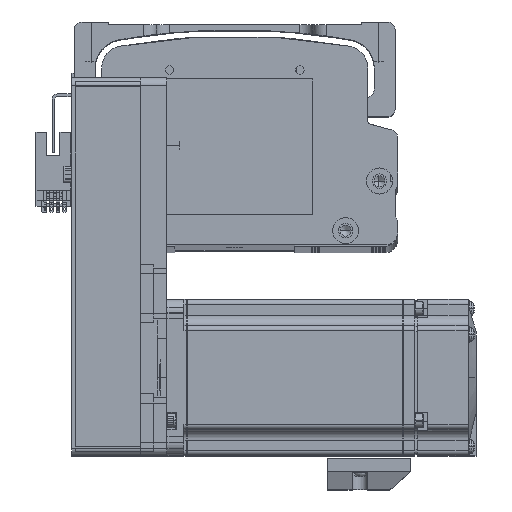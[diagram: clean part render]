
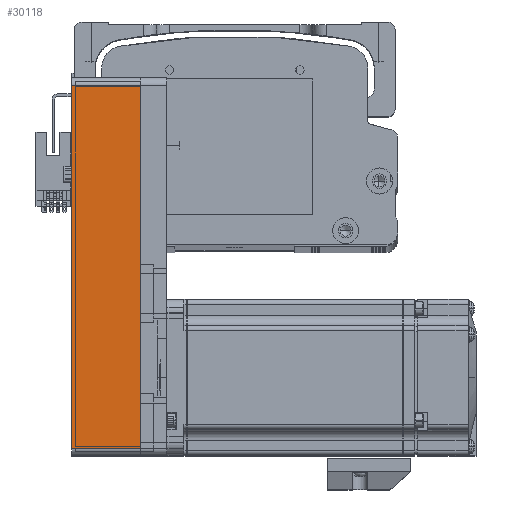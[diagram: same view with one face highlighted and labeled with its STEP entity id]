
A CAD part, top view. The second image highlights one B-rep face of the part: STEP entity #30118.
In plain terms, the highlighted planar face has unit normal (0, 0, 1) as drawn and (0, 1, 0) by its records, which use the part's own axes.
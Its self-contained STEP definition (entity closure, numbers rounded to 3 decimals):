
#4214 = DIRECTION ( 'NONE',  ( 0., 0., -1. ) ) ;
#8892 = CARTESIAN_POINT ( 'NONE',  ( -69.5, 30., 0. ) ) ;
#9939 = ORIENTED_EDGE ( 'NONE', *, *, #74913, .F. ) ;
#11620 = CARTESIAN_POINT ( 'NONE',  ( 72.5, 30., 26.5 ) ) ;
#14098 = VECTOR ( 'NONE', #4214, 1000. ) ;
#14121 = VERTEX_POINT ( 'NONE', #51708 ) ;
#15577 = DIRECTION ( 'NONE',  ( 0., 0., 1. ) ) ;
#16249 = LINE ( 'NONE', #24992, #67513 ) ;
#19425 = AXIS2_PLACEMENT_3D ( 'NONE', #33263, #80057, #40013 ) ;
#24196 = EDGE_CURVE ( 'NONE', #63835, #56289, #36107, .T. ) ;
#24992 = CARTESIAN_POINT ( 'NONE',  ( 72.5, 30., 0. ) ) ;
#25246 = CARTESIAN_POINT ( 'NONE',  ( 69.5, 30., 0. ) ) ;
#30118 = ADVANCED_FACE ( 'NONE', ( #80129 ), #59597, .F. ) ;
#31805 = DIRECTION ( 'NONE',  ( -1., 0., 0. ) ) ;
#31953 = LINE ( 'NONE', #50401, #14098 ) ;
#33263 = CARTESIAN_POINT ( 'NONE',  ( 72.5, 30., 26.5 ) ) ;
#33985 = VECTOR ( 'NONE', #15577, 1000. ) ;
#36107 = LINE ( 'NONE', #55683, #33985 ) ;
#40013 = DIRECTION ( 'NONE',  ( 1., 0., 0. ) ) ;
#44046 = VECTOR ( 'NONE', #31805, 1000. ) ;
#45218 = DIRECTION ( 'NONE',  ( -1., 0., 0. ) ) ;
#46624 = EDGE_CURVE ( 'NONE', #14121, #85481, #31953, .T. ) ;
#46795 = EDGE_LOOP ( 'NONE', ( #64364, #64701, #9939, #55916 ) ) ;
#50401 = CARTESIAN_POINT ( 'NONE',  ( 69.5, 30., 26.5 ) ) ;
#50879 = EDGE_CURVE ( 'NONE', #85481, #63835, #16249, .T. ) ;
#51708 = CARTESIAN_POINT ( 'NONE',  ( 69.5, 30., 26.5 ) ) ;
#55683 = CARTESIAN_POINT ( 'NONE',  ( -69.5, 30., 26.5 ) ) ;
#55916 = ORIENTED_EDGE ( 'NONE', *, *, #46624, .T. ) ;
#56289 = VERTEX_POINT ( 'NONE', #67724 ) ;
#59597 = PLANE ( 'NONE',  #19425 ) ;
#63835 = VERTEX_POINT ( 'NONE', #8892 ) ;
#64364 = ORIENTED_EDGE ( 'NONE', *, *, #50879, .T. ) ;
#64701 = ORIENTED_EDGE ( 'NONE', *, *, #24196, .T. ) ;
#67513 = VECTOR ( 'NONE', #45218, 1000. ) ;
#67724 = CARTESIAN_POINT ( 'NONE',  ( -69.5, 30., 26.5 ) ) ;
#74913 = EDGE_CURVE ( 'NONE', #14121, #56289, #79554, .T. ) ;
#79554 = LINE ( 'NONE', #11620, #44046 ) ;
#80057 = DIRECTION ( 'NONE',  ( 0., -1., 0. ) ) ;
#80129 = FACE_OUTER_BOUND ( 'NONE', #46795, .T. ) ;
#85481 = VERTEX_POINT ( 'NONE', #25246 ) ;
